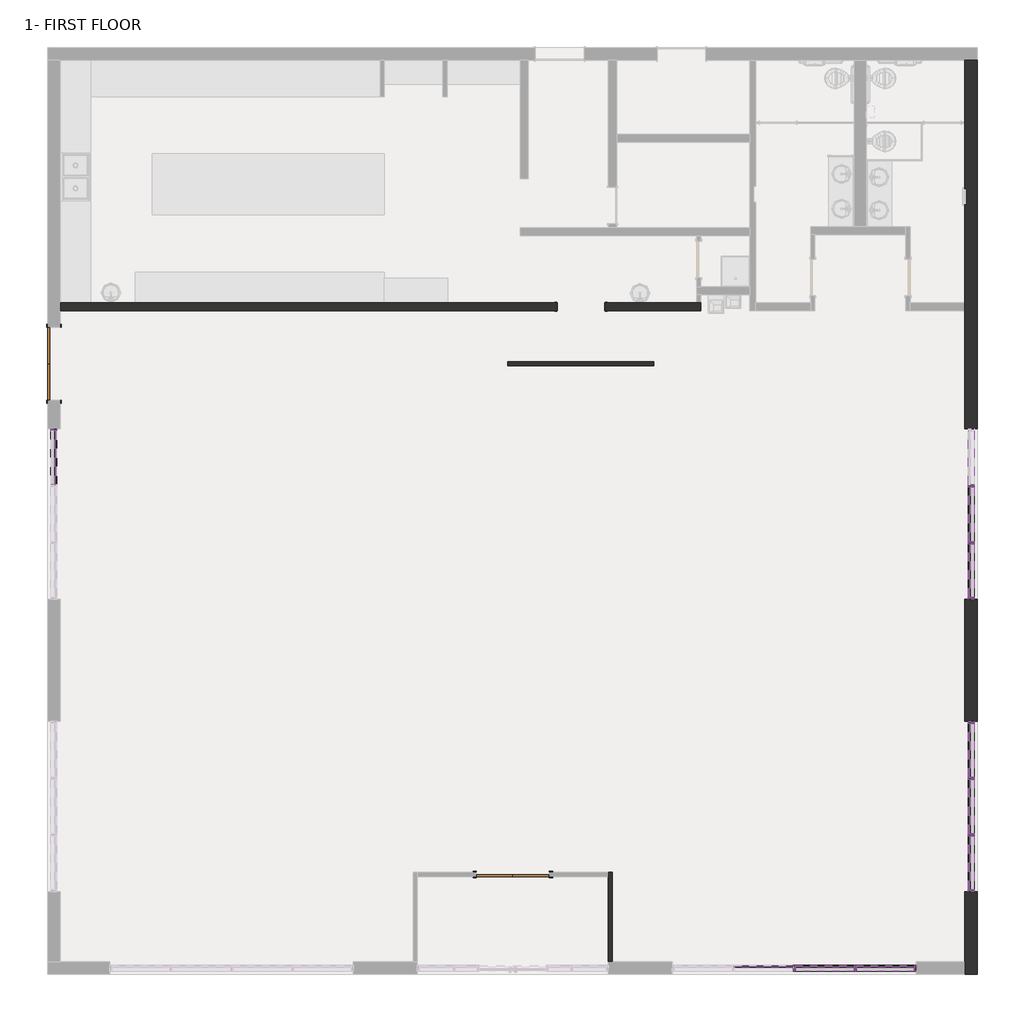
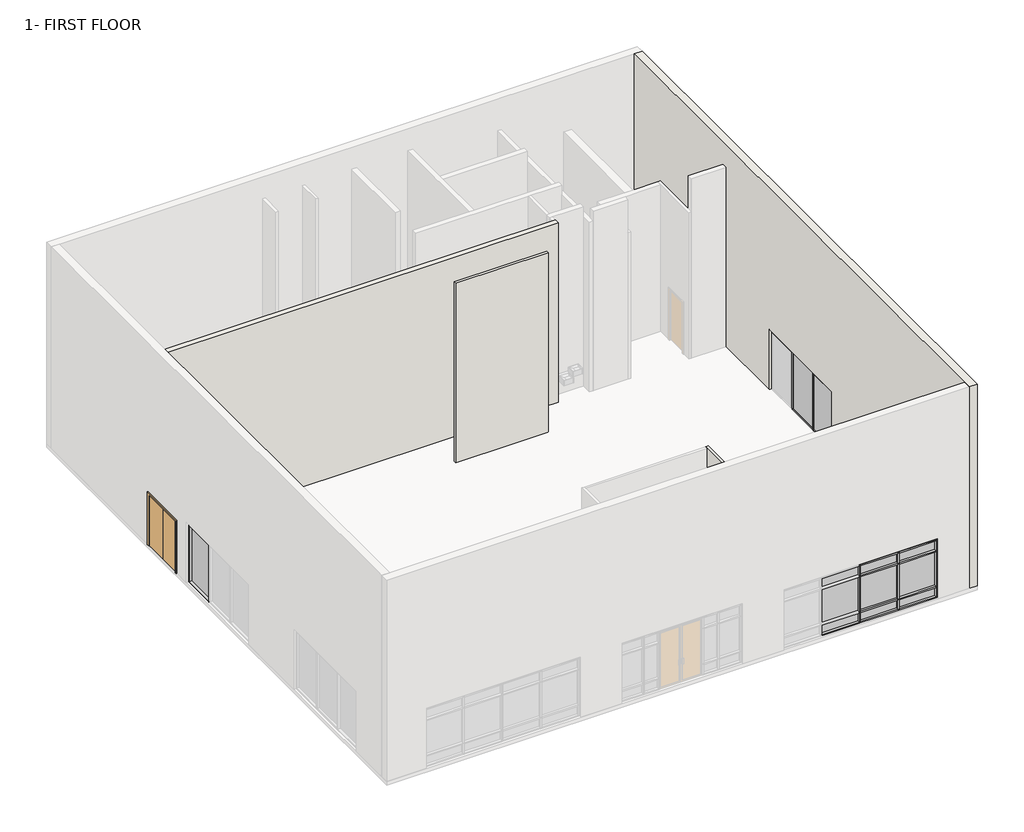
# One storey, part 3 of 4: 57 members, 24 plates, 4 walls, 3 doors.
"""IFC4 building model written with IfcOpenShell, lengths in millimetres."""

from ifc_helpers import new_model, si_unit, origin, origin_with_axes, place, context, project, spatial, polyline, outline, extrude, faceted_brep, transform, mapped, element, save
from components import door_824c45fc, door_6b4fb47b, m_opening_cased_1118_x_2134mm_5fbddd51, rectangular_mullion_50_x_150mm_a8ea6182, rectangular_mullion_50_x_150mm_84181acf, rectangular_mullion_50_x_150mm_662c37b1, rectangular_mullion_50_x_150mm_d49d4e0b, rectangular_mullion_50_x_150mm_5a2b04db, rectangular_mullion_50_x_150mm_00ccb73c, rectangular_mullion_50_x_150mm_edf85684, rectangular_mullion_50_x_150mm_6225e4e3, rectangular_mullion_50_x_150mm_3e65a84e, rectangular_mullion_50_x_150mm_abe4d200, rectangular_mullion_50_x_150mm_372c5efd, rectangular_mullion_50_x_150mm_1929d193, rectangular_mullion_50_x_150mm_e5e1dcca, rectangular_mullion_50_x_150mm_686aa266, rectangular_mullion_50_x_150mm_8236aad0, rectangular_mullion_50_x_150mm_3b5711fc, system_panel_glazed_17027882, system_panel_glazed_f43e7dcf, system_panel_glazed_50cfc5fc, system_panel_glazed_2f55ef0c, system_panel_glazed_3a738299, system_panel_glazed_ff3b6933, system_panel_glazed_378a796b, system_panel_glazed_a4b64557, system_panel_glazed_7ee34cb0, system_panel_glazed_b767e4ab, system_panel_glazed_bfac3f35, system_panel_glazed_e86309c8, system_panel_glazed_7bd62287, system_panel_glazed_753062c8

model = new_model("IFC4")

# Units and contexts
model_context = context("Model", 3, world=origin())
ifc_project = project(units=[si_unit("LENGTHUNIT", "METRE", prefix="MILLI")], contexts=[model_context])

# Site, building, storey
site = spatial("IfcSite", under=ifc_project)
building = spatial("IfcBuilding", under=site)
storey = spatial("IfcBuildingStorey", under=building, Name="1- FIRST FLOOR", Elevation=0.0)

# Doors
placement = place(None, origin())
door_shape = door_824c45fc(model_context)
element("IfcDoor", 1, ObjectType="Double-Flush : 72\" x 84\"", at=placement, inside=storey, context=model_context, shape_type="MappedRepresentation", body=[
    mapped(door_shape, transform((-5903.9879871, -10368.6213332, 0.0), x_axis=(1.0, 0.0, 0.0), y_axis=(0.0, 1.0, 0.0), z_axis=(0.0, 0.0, 1.0))),
])
door_2_shape = door_6b4fb47b(model_context)
element("IfcDoor", 2, ObjectType="Double-Flush : 72\" x 84\"", at=placement, inside=storey, context=model_context, shape_type="MappedRepresentation", body=[
    mapped(door_2_shape, transform((-17387.1504871, 2404.4036668, 0.0), x_axis=(0.0, 1.0, 0.0), y_axis=(-1.0, 0.0, 0.0), z_axis=(0.0, 0.0, 1.0))),
])
m_opening_cased_1118_x_2134mm_shape = m_opening_cased_1118_x_2134mm_5fbddd51(model_context)
element("IfcDoor", 3, ObjectType="M_Opening-Cased : 1118 x 2134mm", at=placement, inside=storey, context=model_context, shape_type="MappedRepresentation", body=[
    mapped(m_opening_cased_1118_x_2134mm_shape, transform((-4191.5993304, 3829.9786668, 0.0), x_axis=(1.0, 0.0, 0.0), y_axis=(0.0, 1.0, 0.0), z_axis=(0.0, 0.0, 1.0))),
])

# Members
rectangular_mullion_50_x_150mm_shape = rectangular_mullion_50_x_150mm_a8ea6182(model_context)
element("IfcMember", 4, ObjectType="Rectangular Mullion : 50 x 150mm", at=placement, inside=storey, context=model_context, shape_type="MappedRepresentation", body=[
    mapped(rectangular_mullion_50_x_150mm_shape, transform((-17387.1504871, 779.9786668, 2508.25), x_axis=(0.0, 1.0, 0.0), y_axis=(-1.0, 0.0, 0.0), z_axis=(0.0, 0.0, 1.0))),
])
rectangular_mullion_50_x_150mm_2_shape = rectangular_mullion_50_x_150mm_84181acf(model_context)
element("IfcMember", 5, ObjectType="Rectangular Mullion : 50 x 150mm", at=placement, inside=storey, context=model_context, shape_type="MappedRepresentation", body=[
    mapped(rectangular_mullion_50_x_150mm_2_shape, transform((5558.5745129, -642.4213333, 2400.0), x_axis=(0.0, -1.0, 0.0), y_axis=(-1.0, 0.0, 0.0), z_axis=(0.0, 0.0, -1.0))),
])
element("IfcMember", 6, ObjectType="Rectangular Mullion : 50 x 150mm", at=placement, inside=storey, context=model_context, shape_type="MappedRepresentation", body=[
    mapped(rectangular_mullion_50_x_150mm_2_shape, transform((5558.5745129, -2064.8213331, 2400.0), x_axis=(0.0, -1.0, 0.0), y_axis=(-1.0, 0.0, 0.0), z_axis=(0.0, 0.0, -1.0))),
])
element("IfcMember", 7, ObjectType="Rectangular Mullion : 50 x 150mm", at=placement, inside=storey, context=model_context, shape_type="MappedRepresentation", body=[
    mapped(rectangular_mullion_50_x_150mm_2_shape, transform((5558.5745129, -7957.6213333, 2400.0), x_axis=(0.0, -1.0, 0.0), y_axis=(-1.0, 0.0, 0.0), z_axis=(0.0, 0.0, -1.0))),
])
element("IfcMember", 8, ObjectType="Rectangular Mullion : 50 x 150mm", at=placement, inside=storey, context=model_context, shape_type="MappedRepresentation", body=[
    mapped(rectangular_mullion_50_x_150mm_2_shape, transform((5558.5745129, -9380.0213331, 2400.0), x_axis=(0.0, -1.0, 0.0), y_axis=(-1.0, 0.0, 0.0), z_axis=(0.0, 0.0, -1.0))),
])
element("IfcMember", 9, ObjectType="Rectangular Mullion : 50 x 150mm", at=placement, inside=storey, context=model_context, shape_type="MappedRepresentation", body=[
    mapped(rectangular_mullion_50_x_150mm_2_shape, transform((2658.2120127, -12710.1838332, 2400.0), x_axis=(-1.0, 0.0, 0.0), y_axis=(0.0, 1.0, 0.0), z_axis=(0.0, 0.0, -1.0))),
])
element("IfcMember", 10, ObjectType="Rectangular Mullion : 50 x 150mm", at=placement, inside=storey, context=model_context, shape_type="MappedRepresentation", body=[
    mapped(rectangular_mullion_50_x_150mm_2_shape, transform((1134.2120129, -12710.1838332, 2400.0), x_axis=(-1.0, 0.0, 0.0), y_axis=(0.0, 1.0, 0.0), z_axis=(0.0, 0.0, -1.0))),
])
element("IfcMember", 11, ObjectType="Rectangular Mullion : 50 x 150mm", at=placement, inside=storey, context=model_context, shape_type="MappedRepresentation", body=[
    mapped(rectangular_mullion_50_x_150mm_shape, transform((5558.5745129, -3487.2213332, 2400.0), x_axis=(0.0, -1.0, 0.0), y_axis=(-1.0, 0.0, 0.0), z_axis=(0.0, 0.0, -1.0))),
])
element("IfcMember", 12, ObjectType="Rectangular Mullion : 50 x 150mm", at=placement, inside=storey, context=model_context, shape_type="MappedRepresentation", body=[
    mapped(rectangular_mullion_50_x_150mm_shape, transform((5558.5745129, -10802.4213332, 2400.0), x_axis=(0.0, -1.0, 0.0), y_axis=(-1.0, 0.0, 0.0), z_axis=(0.0, 0.0, -1.0))),
])
element("IfcMember", 13, ObjectType="Rectangular Mullion : 50 x 150mm", at=placement, inside=storey, context=model_context, shape_type="MappedRepresentation", body=[
    mapped(rectangular_mullion_50_x_150mm_shape, transform((5558.5745129, -6535.2213332, 2508.25), x_axis=(0.0, 1.0, 0.0), y_axis=(-1.0, 0.0, 0.0), z_axis=(0.0, 0.0, 1.0))),
])
element("IfcMember", 14, ObjectType="Rectangular Mullion : 50 x 150mm", at=placement, inside=storey, context=model_context, shape_type="MappedRepresentation", body=[
    mapped(rectangular_mullion_50_x_150mm_shape, transform((4182.2120129, -12710.1838332, 2508.25), x_axis=(1.0, 0.0, 0.0), y_axis=(0.0, 1.0, 0.0), z_axis=(0.0, 0.0, 1.0))),
])
rectangular_mullion_50_x_150mm_3_shape = rectangular_mullion_50_x_150mm_662c37b1(model_context)
element("IfcMember", 15, ObjectType="Rectangular Mullion : 50 x 150mm", at=placement, inside=storey, context=model_context, shape_type="MappedRepresentation", body=[
    mapped(rectangular_mullion_50_x_150mm_3_shape, transform((-17387.1504871, 779.9786668, 2400.0), x_axis=(0.0, 1.0, 0.0), y_axis=(-1.0, 0.0, 0.0), z_axis=(0.0, 0.0, 1.0))),
])
rectangular_mullion_50_x_150mm_4_shape = rectangular_mullion_50_x_150mm_d49d4e0b(model_context)
element("IfcMember", 16, ObjectType="Rectangular Mullion : 50 x 150mm", at=placement, inside=storey, context=model_context, shape_type="MappedRepresentation", body=[
    mapped(rectangular_mullion_50_x_150mm_4_shape, transform((-17387.1504871, 729.9786668, 0.0), x_axis=(0.0, 0.0, -1.0), y_axis=(-1.0, 0.0, 0.0), z_axis=(0.0, 1.0, 0.0))),
])
element("IfcMember", 17, ObjectType="Rectangular Mullion : 50 x 150mm", at=placement, inside=storey, context=model_context, shape_type="MappedRepresentation", body=[
    mapped(rectangular_mullion_50_x_150mm_4_shape, transform((5558.5745129, -3437.2213332, 2508.25), x_axis=(0.0, 0.0, 1.0), y_axis=(-1.0, 0.0, 0.0), z_axis=(0.0, -1.0, 0.0))),
])
element("IfcMember", 18, ObjectType="Rectangular Mullion : 50 x 150mm", at=placement, inside=storey, context=model_context, shape_type="MappedRepresentation", body=[
    mapped(rectangular_mullion_50_x_150mm_4_shape, transform((5558.5745129, -617.4213333, 2508.25), x_axis=(0.0, 0.0, 1.0), y_axis=(-1.0, 0.0, 0.0), z_axis=(0.0, -1.0, 0.0))),
])
element("IfcMember", 19, ObjectType="Rectangular Mullion : 50 x 150mm", at=placement, inside=storey, context=model_context, shape_type="MappedRepresentation", body=[
    mapped(rectangular_mullion_50_x_150mm_4_shape, transform((5558.5745129, -10752.4213332, 2508.25), x_axis=(0.0, 0.0, 1.0), y_axis=(-1.0, 0.0, 0.0), z_axis=(0.0, -1.0, 0.0))),
])
element("IfcMember", 20, ObjectType="Rectangular Mullion : 50 x 150mm", at=placement, inside=storey, context=model_context, shape_type="MappedRepresentation", body=[
    mapped(rectangular_mullion_50_x_150mm_4_shape, transform((5558.5745129, -7932.6213333, 2508.25), x_axis=(0.0, 0.0, 1.0), y_axis=(-1.0, 0.0, 0.0), z_axis=(0.0, -1.0, 0.0))),
])
rectangular_mullion_50_x_150mm_5_shape = rectangular_mullion_50_x_150mm_5a2b04db(model_context)
element("IfcMember", 21, ObjectType="Rectangular Mullion : 50 x 150mm", at=placement, inside=storey, context=model_context, shape_type="MappedRepresentation", body=[
    mapped(rectangular_mullion_50_x_150mm_5_shape, transform((5558.5745129, -2039.8213331, 2508.25), x_axis=(0.0, 0.0, 1.0), y_axis=(-1.0, 0.0, 0.0), z_axis=(0.0, -1.0, 0.0))),
])
element("IfcMember", 22, ObjectType="Rectangular Mullion : 50 x 150mm", at=placement, inside=storey, context=model_context, shape_type="MappedRepresentation", body=[
    mapped(rectangular_mullion_50_x_150mm_5_shape, transform((5558.5745129, -9355.0213331, 2508.25), x_axis=(0.0, 0.0, 1.0), y_axis=(-1.0, 0.0, 0.0), z_axis=(0.0, -1.0, 0.0))),
])
element("IfcMember", 23, ObjectType="Rectangular Mullion : 50 x 150mm", at=placement, inside=storey, context=model_context, shape_type="MappedRepresentation", body=[
    mapped(rectangular_mullion_50_x_150mm_4_shape, transform((5558.5745129, -2089.8213331, 0.0), x_axis=(0.0, 0.0, -1.0), y_axis=(-1.0, 0.0, 0.0), z_axis=(0.0, 1.0, 0.0))),
])
element("IfcMember", 24, ObjectType="Rectangular Mullion : 50 x 150mm", at=placement, inside=storey, context=model_context, shape_type="MappedRepresentation", body=[
    mapped(rectangular_mullion_50_x_150mm_4_shape, transform((5558.5745129, -6585.2213332, 0.0), x_axis=(0.0, 0.0, -1.0), y_axis=(-1.0, 0.0, 0.0), z_axis=(0.0, 1.0, 0.0))),
])
element("IfcMember", 25, ObjectType="Rectangular Mullion : 50 x 150mm", at=placement, inside=storey, context=model_context, shape_type="MappedRepresentation", body=[
    mapped(rectangular_mullion_50_x_150mm_4_shape, transform((5558.5745129, -9405.0213331, 0.0), x_axis=(0.0, 0.0, -1.0), y_axis=(-1.0, 0.0, 0.0), z_axis=(0.0, 1.0, 0.0))),
])
element("IfcMember", 26, ObjectType="Rectangular Mullion : 50 x 150mm", at=placement, inside=storey, context=model_context, shape_type="MappedRepresentation", body=[
    mapped(rectangular_mullion_50_x_150mm_5_shape, transform((5558.5745129, -667.4213333, 0.0), x_axis=(0.0, 0.0, -1.0), y_axis=(-1.0, 0.0, 0.0), z_axis=(0.0, 1.0, 0.0))),
])
element("IfcMember", 27, ObjectType="Rectangular Mullion : 50 x 150mm", at=placement, inside=storey, context=model_context, shape_type="MappedRepresentation", body=[
    mapped(rectangular_mullion_50_x_150mm_5_shape, transform((5558.5745129, -7982.6213333, 0.0), x_axis=(0.0, 0.0, -1.0), y_axis=(-1.0, 0.0, 0.0), z_axis=(0.0, 1.0, 0.0))),
])
rectangular_mullion_50_x_150mm_6_shape = rectangular_mullion_50_x_150mm_00ccb73c(model_context)
element("IfcMember", 28, ObjectType="Rectangular Mullion : 50 x 150mm", at=placement, inside=storey, context=model_context, shape_type="MappedRepresentation", body=[
    mapped(rectangular_mullion_50_x_150mm_6_shape, transform((5558.5745129, -617.4213333, 2400.0), x_axis=(0.0, 0.0, 1.0), y_axis=(-1.0, 0.0, 0.0), z_axis=(0.0, -1.0, 0.0))),
])
element("IfcMember", 29, ObjectType="Rectangular Mullion : 50 x 150mm", at=placement, inside=storey, context=model_context, shape_type="MappedRepresentation", body=[
    mapped(rectangular_mullion_50_x_150mm_6_shape, transform((5558.5745129, -3437.2213332, 2400.0), x_axis=(0.0, 0.0, 1.0), y_axis=(-1.0, 0.0, 0.0), z_axis=(0.0, -1.0, 0.0))),
])
element("IfcMember", 30, ObjectType="Rectangular Mullion : 50 x 150mm", at=placement, inside=storey, context=model_context, shape_type="MappedRepresentation", body=[
    mapped(rectangular_mullion_50_x_150mm_6_shape, transform((5558.5745129, -7932.6213333, 2400.0), x_axis=(0.0, 0.0, 1.0), y_axis=(-1.0, 0.0, 0.0), z_axis=(0.0, -1.0, 0.0))),
])
element("IfcMember", 31, ObjectType="Rectangular Mullion : 50 x 150mm", at=placement, inside=storey, context=model_context, shape_type="MappedRepresentation", body=[
    mapped(rectangular_mullion_50_x_150mm_6_shape, transform((5558.5745129, -10752.4213332, 2400.0), x_axis=(0.0, 0.0, 1.0), y_axis=(-1.0, 0.0, 0.0), z_axis=(0.0, -1.0, 0.0))),
])
rectangular_mullion_50_x_150mm_7_shape = rectangular_mullion_50_x_150mm_edf85684(model_context)
element("IfcMember", 32, ObjectType="Rectangular Mullion : 50 x 150mm", at=placement, inside=storey, context=model_context, shape_type="MappedRepresentation", body=[
    mapped(rectangular_mullion_50_x_150mm_7_shape, transform((5558.5745129, -2039.8213331, 2400.0), x_axis=(0.0, 0.0, 1.0), y_axis=(-1.0, 0.0, 0.0), z_axis=(0.0, -1.0, 0.0))),
])
element("IfcMember", 33, ObjectType="Rectangular Mullion : 50 x 150mm", at=placement, inside=storey, context=model_context, shape_type="MappedRepresentation", body=[
    mapped(rectangular_mullion_50_x_150mm_7_shape, transform((5558.5745129, -9355.0213331, 2400.0), x_axis=(0.0, 0.0, 1.0), y_axis=(-1.0, 0.0, 0.0), z_axis=(0.0, -1.0, 0.0))),
])
rectangular_mullion_50_x_150mm_8_shape = rectangular_mullion_50_x_150mm_6225e4e3(model_context)
element("IfcMember", 34, ObjectType="Rectangular Mullion : 50 x 150mm", at=placement, inside=storey, context=model_context, shape_type="MappedRepresentation", body=[
    mapped(rectangular_mullion_50_x_150mm_8_shape, transform((5558.5745129, -642.4213333, 0.0), x_axis=(0.0, -1.0, 0.0), y_axis=(-1.0, 0.0, 0.0), z_axis=(0.0, 0.0, -1.0))),
])
element("IfcMember", 35, ObjectType="Rectangular Mullion : 50 x 150mm", at=placement, inside=storey, context=model_context, shape_type="MappedRepresentation", body=[
    mapped(rectangular_mullion_50_x_150mm_8_shape, transform((5558.5745129, -2064.8213331, 0.0), x_axis=(0.0, -1.0, 0.0), y_axis=(-1.0, 0.0, 0.0), z_axis=(0.0, 0.0, -1.0))),
])
element("IfcMember", 36, ObjectType="Rectangular Mullion : 50 x 150mm", at=placement, inside=storey, context=model_context, shape_type="MappedRepresentation", body=[
    mapped(rectangular_mullion_50_x_150mm_8_shape, transform((5558.5745129, -7957.6213333, 0.0), x_axis=(0.0, -1.0, 0.0), y_axis=(-1.0, 0.0, 0.0), z_axis=(0.0, 0.0, -1.0))),
])
element("IfcMember", 37, ObjectType="Rectangular Mullion : 50 x 150mm", at=placement, inside=storey, context=model_context, shape_type="MappedRepresentation", body=[
    mapped(rectangular_mullion_50_x_150mm_8_shape, transform((5558.5745129, -9380.0213331, 0.0), x_axis=(0.0, -1.0, 0.0), y_axis=(-1.0, 0.0, 0.0), z_axis=(0.0, 0.0, -1.0))),
])
element("IfcMember", 38, ObjectType="Rectangular Mullion : 50 x 150mm", at=placement, inside=storey, context=model_context, shape_type="MappedRepresentation", body=[
    mapped(rectangular_mullion_50_x_150mm_3_shape, transform((5558.5745129, -3487.2213332, 0.0), x_axis=(0.0, -1.0, 0.0), y_axis=(-1.0, 0.0, 0.0), z_axis=(0.0, 0.0, -1.0))),
])
element("IfcMember", 39, ObjectType="Rectangular Mullion : 50 x 150mm", at=placement, inside=storey, context=model_context, shape_type="MappedRepresentation", body=[
    mapped(rectangular_mullion_50_x_150mm_3_shape, transform((5558.5745129, -10802.4213332, 0.0), x_axis=(0.0, -1.0, 0.0), y_axis=(-1.0, 0.0, 0.0), z_axis=(0.0, 0.0, -1.0))),
])
element("IfcMember", 40, ObjectType="Rectangular Mullion : 50 x 150mm", at=placement, inside=storey, context=model_context, shape_type="MappedRepresentation", body=[
    mapped(rectangular_mullion_50_x_150mm_3_shape, transform((5558.5745129, -6535.2213332, 2400.0), x_axis=(0.0, 1.0, 0.0), y_axis=(-1.0, 0.0, 0.0), z_axis=(0.0, 0.0, 1.0))),
])
rectangular_mullion_50_x_150mm_9_shape = rectangular_mullion_50_x_150mm_3e65a84e(model_context)
element("IfcMember", 41, ObjectType="Rectangular Mullion : 50 x 150mm", at=placement, inside=storey, context=model_context, shape_type="MappedRepresentation", body=[
    mapped(rectangular_mullion_50_x_150mm_9_shape, transform((2683.2120127, -12710.1838332, 2508.25), x_axis=(0.0, 0.0, 1.0), y_axis=(0.0, 1.0, 0.0), z_axis=(-1.0, 0.0, 0.0))),
])
rectangular_mullion_50_x_150mm_10_shape = rectangular_mullion_50_x_150mm_abe4d200(model_context)
element("IfcMember", 42, ObjectType="Rectangular Mullion : 50 x 150mm", at=placement, inside=storey, context=model_context, shape_type="MappedRepresentation", body=[
    mapped(rectangular_mullion_50_x_150mm_10_shape, transform((1159.2120129, -12710.1838332, 2508.25), x_axis=(0.0, 0.0, 1.0), y_axis=(0.0, 1.0, 0.0), z_axis=(-1.0, 0.0, 0.0))),
])
element("IfcMember", 43, ObjectType="Rectangular Mullion : 50 x 150mm", at=placement, inside=storey, context=model_context, shape_type="MappedRepresentation", body=[
    mapped(rectangular_mullion_50_x_150mm_9_shape, transform((4132.2120129, -12710.1838332, 0.0), x_axis=(0.0, 0.0, -1.0), y_axis=(0.0, 1.0, 0.0), z_axis=(1.0, 0.0, 0.0))),
])
element("IfcMember", 44, ObjectType="Rectangular Mullion : 50 x 150mm", at=placement, inside=storey, context=model_context, shape_type="MappedRepresentation", body=[
    mapped(rectangular_mullion_50_x_150mm_10_shape, transform((2633.2120127, -12710.1838332, 0.0), x_axis=(0.0, 0.0, -1.0), y_axis=(0.0, 1.0, 0.0), z_axis=(1.0, 0.0, 0.0))),
])
element("IfcMember", 45, ObjectType="Rectangular Mullion : 50 x 150mm", at=placement, inside=storey, context=model_context, shape_type="MappedRepresentation", body=[
    mapped(rectangular_mullion_50_x_150mm_10_shape, transform((1109.2120129, -12710.1838332, 0.0), x_axis=(0.0, 0.0, -1.0), y_axis=(0.0, 1.0, 0.0), z_axis=(1.0, 0.0, 0.0))),
])
rectangular_mullion_50_x_150mm_11_shape = rectangular_mullion_50_x_150mm_372c5efd(model_context)
element("IfcMember", 46, ObjectType="Rectangular Mullion : 50 x 150mm", at=placement, inside=storey, context=model_context, shape_type="MappedRepresentation", body=[
    mapped(rectangular_mullion_50_x_150mm_11_shape, transform((2683.2120127, -12710.1838332, 2400.0), x_axis=(0.0, 0.0, 1.0), y_axis=(0.0, 1.0, 0.0), z_axis=(-1.0, 0.0, 0.0))),
])
rectangular_mullion_50_x_150mm_12_shape = rectangular_mullion_50_x_150mm_1929d193(model_context)
element("IfcMember", 47, ObjectType="Rectangular Mullion : 50 x 150mm", at=placement, inside=storey, context=model_context, shape_type="MappedRepresentation", body=[
    mapped(rectangular_mullion_50_x_150mm_12_shape, transform((1159.2120129, -12710.1838332, 2400.0), x_axis=(0.0, 0.0, 1.0), y_axis=(0.0, 1.0, 0.0), z_axis=(-1.0, 0.0, 0.0))),
])
element("IfcMember", 48, ObjectType="Rectangular Mullion : 50 x 150mm", at=placement, inside=storey, context=model_context, shape_type="MappedRepresentation", body=[
    mapped(rectangular_mullion_50_x_150mm_11_shape, transform((2683.2120127, -12710.1838332, 1942.8), x_axis=(0.0, 0.0, 1.0), y_axis=(0.0, 1.0, 0.0), z_axis=(-1.0, 0.0, 0.0))),
])
element("IfcMember", 49, ObjectType="Rectangular Mullion : 50 x 150mm", at=placement, inside=storey, context=model_context, shape_type="MappedRepresentation", body=[
    mapped(rectangular_mullion_50_x_150mm_11_shape, transform((2683.2120127, -12710.1838332, 457.2), x_axis=(0.0, 0.0, 1.0), y_axis=(0.0, 1.0, 0.0), z_axis=(-1.0, 0.0, 0.0))),
])
element("IfcMember", 50, ObjectType="Rectangular Mullion : 50 x 150mm", at=placement, inside=storey, context=model_context, shape_type="MappedRepresentation", body=[
    mapped(rectangular_mullion_50_x_150mm_12_shape, transform((1159.2120129, -12710.1838332, 1942.8), x_axis=(0.0, 0.0, 1.0), y_axis=(0.0, 1.0, 0.0), z_axis=(-1.0, 0.0, 0.0))),
])
element("IfcMember", 51, ObjectType="Rectangular Mullion : 50 x 150mm", at=placement, inside=storey, context=model_context, shape_type="MappedRepresentation", body=[
    mapped(rectangular_mullion_50_x_150mm_12_shape, transform((1159.2120129, -12710.1838332, 457.2), x_axis=(0.0, 0.0, 1.0), y_axis=(0.0, 1.0, 0.0), z_axis=(-1.0, 0.0, 0.0))),
])
rectangular_mullion_50_x_150mm_13_shape = rectangular_mullion_50_x_150mm_e5e1dcca(model_context)
element("IfcMember", 52, ObjectType="Rectangular Mullion : 50 x 150mm", at=placement, inside=storey, context=model_context, shape_type="MappedRepresentation", body=[
    mapped(rectangular_mullion_50_x_150mm_13_shape, transform((2658.2120127, -12710.1838332, 1942.8), x_axis=(-1.0, 0.0, 0.0), y_axis=(0.0, 1.0, 0.0), z_axis=(0.0, 0.0, -1.0))),
])
element("IfcMember", 53, ObjectType="Rectangular Mullion : 50 x 150mm", at=placement, inside=storey, context=model_context, shape_type="MappedRepresentation", body=[
    mapped(rectangular_mullion_50_x_150mm_13_shape, transform((1134.2120129, -12710.1838332, 1942.8), x_axis=(-1.0, 0.0, 0.0), y_axis=(0.0, 1.0, 0.0), z_axis=(0.0, 0.0, -1.0))),
])
rectangular_mullion_50_x_150mm_14_shape = rectangular_mullion_50_x_150mm_686aa266(model_context)
element("IfcMember", 54, ObjectType="Rectangular Mullion : 50 x 150mm", at=placement, inside=storey, context=model_context, shape_type="MappedRepresentation", body=[
    mapped(rectangular_mullion_50_x_150mm_14_shape, transform((4182.2120129, -12710.1838332, 2400.0), x_axis=(1.0, 0.0, 0.0), y_axis=(0.0, 1.0, 0.0), z_axis=(0.0, 0.0, 1.0))),
])
element("IfcMember", 55, ObjectType="Rectangular Mullion : 50 x 150mm", at=placement, inside=storey, context=model_context, shape_type="MappedRepresentation", body=[
    mapped(rectangular_mullion_50_x_150mm_13_shape, transform((2658.2120127, -12710.1838332, 0.0), x_axis=(-1.0, 0.0, 0.0), y_axis=(0.0, 1.0, 0.0), z_axis=(0.0, 0.0, -1.0))),
])
element("IfcMember", 56, ObjectType="Rectangular Mullion : 50 x 150mm", at=placement, inside=storey, context=model_context, shape_type="MappedRepresentation", body=[
    mapped(rectangular_mullion_50_x_150mm_13_shape, transform((1134.2120129, -12710.1838332, 0.0), x_axis=(-1.0, 0.0, 0.0), y_axis=(0.0, 1.0, 0.0), z_axis=(0.0, 0.0, -1.0))),
])
rectangular_mullion_50_x_150mm_15_shape = rectangular_mullion_50_x_150mm_8236aad0(model_context)
element("IfcMember", 57, ObjectType="Rectangular Mullion : 50 x 150mm", at=placement, inside=storey, context=model_context, shape_type="MappedRepresentation", body=[
    mapped(rectangular_mullion_50_x_150mm_15_shape, transform((2658.2120127, -12710.1838332, 457.2), x_axis=(-1.0, 0.0, 0.0), y_axis=(0.0, 1.0, 0.0), z_axis=(0.0, 0.0, -1.0))),
])
element("IfcMember", 58, ObjectType="Rectangular Mullion : 50 x 150mm", at=placement, inside=storey, context=model_context, shape_type="MappedRepresentation", body=[
    mapped(rectangular_mullion_50_x_150mm_15_shape, transform((1134.2120129, -12710.1838332, 457.2), x_axis=(-1.0, 0.0, 0.0), y_axis=(0.0, 1.0, 0.0), z_axis=(0.0, 0.0, -1.0))),
])
rectangular_mullion_50_x_150mm_16_shape = rectangular_mullion_50_x_150mm_3b5711fc(model_context)
element("IfcMember", 59, ObjectType="Rectangular Mullion : 50 x 150mm", at=placement, inside=storey, context=model_context, shape_type="MappedRepresentation", body=[
    mapped(rectangular_mullion_50_x_150mm_16_shape, transform((4182.2120129, -12710.1838332, 1942.8), x_axis=(1.0, 0.0, 0.0), y_axis=(0.0, 1.0, 0.0), z_axis=(0.0, 0.0, 1.0))),
])
element("IfcMember", 60, ObjectType="Rectangular Mullion : 50 x 150mm", at=placement, inside=storey, context=model_context, shape_type="MappedRepresentation", body=[
    mapped(rectangular_mullion_50_x_150mm_14_shape, transform((4182.2120129, -12710.1838332, 457.2), x_axis=(1.0, 0.0, 0.0), y_axis=(0.0, 1.0, 0.0), z_axis=(0.0, 0.0, 1.0))),
])

# Plates
system_panel_glazed_shape = system_panel_glazed_17027882(model_context)
element("IfcPlate", 61, ObjectType="System Panel : Glazed", at=placement, inside=storey, context=model_context, shape_type="MappedRepresentation", body=[
    mapped(system_panel_glazed_shape, transform((-17387.1504871, 56.2786667, 50.0), x_axis=(0.0, -1.0, 0.0), y_axis=(1.0, 0.0, 0.0), z_axis=(0.0, 0.0, 1.0))),
])
system_panel_glazed_2_shape = system_panel_glazed_f43e7dcf(model_context)
element("IfcPlate", 62, ObjectType="System Panel : Glazed", at=placement, inside=storey, context=model_context, shape_type="MappedRepresentation", body=[
    mapped(system_panel_glazed_2_shape, transform((-17387.1504871, 56.2786667, 2425.0), x_axis=(0.0, -1.0, 0.0), y_axis=(1.0, 0.0, 0.0), z_axis=(0.0, 0.0, 1.0))),
])
system_panel_glazed_3_shape = system_panel_glazed_50cfc5fc(model_context)
element("IfcPlate", 63, ObjectType="System Panel : Glazed", at=placement, inside=storey, context=model_context, shape_type="MappedRepresentation", body=[
    mapped(system_panel_glazed_3_shape, transform((5558.5745129, -2763.5213332, 50.0), x_axis=(0.0, -1.0, 0.0), y_axis=(1.0, 0.0, 0.0), z_axis=(0.0, 0.0, 1.0))),
])
element("IfcPlate", 64, ObjectType="System Panel : Glazed", at=placement, inside=storey, context=model_context, shape_type="MappedRepresentation", body=[
    mapped(system_panel_glazed_3_shape, transform((5558.5745129, -7258.9213333, 50.0), x_axis=(0.0, -1.0, 0.0), y_axis=(1.0, 0.0, 0.0), z_axis=(0.0, 0.0, 1.0))),
])
element("IfcPlate", 65, ObjectType="System Panel : Glazed", at=placement, inside=storey, context=model_context, shape_type="MappedRepresentation", body=[
    mapped(system_panel_glazed_3_shape, transform((5558.5745129, -10078.7213332, 50.0), x_axis=(0.0, -1.0, 0.0), y_axis=(1.0, 0.0, 0.0), z_axis=(0.0, 0.0, 1.0))),
])
system_panel_glazed_4_shape = system_panel_glazed_2f55ef0c(model_context)
element("IfcPlate", 66, ObjectType="System Panel : Glazed", at=placement, inside=storey, context=model_context, shape_type="MappedRepresentation", body=[
    mapped(system_panel_glazed_4_shape, transform((5558.5745129, -1353.6213332, 50.0), x_axis=(0.0, -1.0, 0.0), y_axis=(1.0, 0.0, 0.0), z_axis=(0.0, 0.0, 1.0))),
])
element("IfcPlate", 67, ObjectType="System Panel : Glazed", at=placement, inside=storey, context=model_context, shape_type="MappedRepresentation", body=[
    mapped(system_panel_glazed_4_shape, transform((5558.5745129, -8668.8213332, 50.0), x_axis=(0.0, -1.0, 0.0), y_axis=(1.0, 0.0, 0.0), z_axis=(0.0, 0.0, 1.0))),
])
system_panel_glazed_5_shape = system_panel_glazed_3a738299(model_context)
element("IfcPlate", 68, ObjectType="System Panel : Glazed", at=placement, inside=storey, context=model_context, shape_type="MappedRepresentation", body=[
    mapped(system_panel_glazed_5_shape, transform((5558.5745129, -2763.5213332, 2425.0), x_axis=(0.0, -1.0, 0.0), y_axis=(1.0, 0.0, 0.0), z_axis=(0.0, 0.0, 1.0))),
])
element("IfcPlate", 69, ObjectType="System Panel : Glazed", at=placement, inside=storey, context=model_context, shape_type="MappedRepresentation", body=[
    mapped(system_panel_glazed_5_shape, transform((5558.5745129, -7258.9213333, 2425.0), x_axis=(0.0, -1.0, 0.0), y_axis=(1.0, 0.0, 0.0), z_axis=(0.0, 0.0, 1.0))),
])
element("IfcPlate", 70, ObjectType="System Panel : Glazed", at=placement, inside=storey, context=model_context, shape_type="MappedRepresentation", body=[
    mapped(system_panel_glazed_5_shape, transform((5558.5745129, -10078.7213332, 2425.0), x_axis=(0.0, -1.0, 0.0), y_axis=(1.0, 0.0, 0.0), z_axis=(0.0, 0.0, 1.0))),
])
system_panel_glazed_6_shape = system_panel_glazed_ff3b6933(model_context)
element("IfcPlate", 71, ObjectType="System Panel : Glazed", at=placement, inside=storey, context=model_context, shape_type="MappedRepresentation", body=[
    mapped(system_panel_glazed_6_shape, transform((5558.5745129, -1353.6213332, 2425.0), x_axis=(0.0, -1.0, 0.0), y_axis=(1.0, 0.0, 0.0), z_axis=(0.0, 0.0, 1.0))),
])
element("IfcPlate", 72, ObjectType="System Panel : Glazed", at=placement, inside=storey, context=model_context, shape_type="MappedRepresentation", body=[
    mapped(system_panel_glazed_6_shape, transform((5558.5745129, -8668.8213332, 2425.0), x_axis=(0.0, -1.0, 0.0), y_axis=(1.0, 0.0, 0.0), z_axis=(0.0, 0.0, 1.0))),
])
system_panel_glazed_7_shape = system_panel_glazed_378a796b(model_context)
element("IfcPlate", 73, ObjectType="System Panel : Glazed", at=placement, inside=storey, context=model_context, shape_type="MappedRepresentation", body=[
    mapped(system_panel_glazed_7_shape, transform((3407.7120128, -12710.1838332, 2425.0), x_axis=(-1.0, 0.0, 0.0), y_axis=(0.0, -1.0, 0.0), z_axis=(0.0, 0.0, 1.0))),
])
system_panel_glazed_8_shape = system_panel_glazed_a4b64557(model_context)
element("IfcPlate", 74, ObjectType="System Panel : Glazed", at=placement, inside=storey, context=model_context, shape_type="MappedRepresentation", body=[
    mapped(system_panel_glazed_8_shape, transform((1896.2120128, -12710.1838332, 2425.0), x_axis=(-1.0, 0.0, 0.0), y_axis=(0.0, -1.0, 0.0), z_axis=(0.0, 0.0, 1.0))),
])
element("IfcPlate", 75, ObjectType="System Panel : Glazed", at=placement, inside=storey, context=model_context, shape_type="MappedRepresentation", body=[
    mapped(system_panel_glazed_8_shape, transform((372.212013, -12710.1838332, 2425.0), x_axis=(-1.0, 0.0, 0.0), y_axis=(0.0, -1.0, 0.0), z_axis=(0.0, 0.0, 1.0))),
])
system_panel_glazed_9_shape = system_panel_glazed_7ee34cb0(model_context)
element("IfcPlate", 76, ObjectType="System Panel : Glazed", at=placement, inside=storey, context=model_context, shape_type="MappedRepresentation", body=[
    mapped(system_panel_glazed_9_shape, transform((3407.7120128, -12710.1838332, 1967.8), x_axis=(-1.0, 0.0, 0.0), y_axis=(0.0, -1.0, 0.0), z_axis=(0.0, 0.0, 1.0))),
])
system_panel_glazed_10_shape = system_panel_glazed_b767e4ab(model_context)
element("IfcPlate", 77, ObjectType="System Panel : Glazed", at=placement, inside=storey, context=model_context, shape_type="MappedRepresentation", body=[
    mapped(system_panel_glazed_10_shape, transform((1896.2120128, -12710.1838332, 1967.8), x_axis=(-1.0, 0.0, 0.0), y_axis=(0.0, -1.0, 0.0), z_axis=(0.0, 0.0, 1.0))),
])
element("IfcPlate", 78, ObjectType="System Panel : Glazed", at=placement, inside=storey, context=model_context, shape_type="MappedRepresentation", body=[
    mapped(system_panel_glazed_10_shape, transform((372.212013, -12710.1838332, 1967.8), x_axis=(-1.0, 0.0, 0.0), y_axis=(0.0, -1.0, 0.0), z_axis=(0.0, 0.0, 1.0))),
])
system_panel_glazed_11_shape = system_panel_glazed_bfac3f35(model_context)
element("IfcPlate", 79, ObjectType="System Panel : Glazed", at=placement, inside=storey, context=model_context, shape_type="MappedRepresentation", body=[
    mapped(system_panel_glazed_11_shape, transform((3407.7120128, -12710.1838332, 50.0), x_axis=(-1.0, 0.0, 0.0), y_axis=(0.0, -1.0, 0.0), z_axis=(0.0, 0.0, 1.0))),
])
system_panel_glazed_12_shape = system_panel_glazed_e86309c8(model_context)
element("IfcPlate", 80, ObjectType="System Panel : Glazed", at=placement, inside=storey, context=model_context, shape_type="MappedRepresentation", body=[
    mapped(system_panel_glazed_12_shape, transform((1896.2120128, -12710.1838332, 50.0), x_axis=(-1.0, 0.0, 0.0), y_axis=(0.0, -1.0, 0.0), z_axis=(0.0, 0.0, 1.0))),
])
element("IfcPlate", 81, ObjectType="System Panel : Glazed", at=placement, inside=storey, context=model_context, shape_type="MappedRepresentation", body=[
    mapped(system_panel_glazed_12_shape, transform((372.212013, -12710.1838332, 50.0), x_axis=(-1.0, 0.0, 0.0), y_axis=(0.0, -1.0, 0.0), z_axis=(0.0, 0.0, 1.0))),
])
system_panel_glazed_13_shape = system_panel_glazed_7bd62287(model_context)
element("IfcPlate", 82, ObjectType="System Panel : Glazed", at=placement, inside=storey, context=model_context, shape_type="MappedRepresentation", body=[
    mapped(system_panel_glazed_13_shape, transform((3407.7120128, -12710.1838332, 482.2), x_axis=(-1.0, 0.0, 0.0), y_axis=(0.0, -1.0, 0.0), z_axis=(0.0, 0.0, 1.0))),
])
system_panel_glazed_14_shape = system_panel_glazed_753062c8(model_context)
element("IfcPlate", 83, ObjectType="System Panel : Glazed", at=placement, inside=storey, context=model_context, shape_type="MappedRepresentation", body=[
    mapped(system_panel_glazed_14_shape, transform((1896.2120128, -12710.1838332, 482.2), x_axis=(-1.0, 0.0, 0.0), y_axis=(0.0, -1.0, 0.0), z_axis=(0.0, 0.0, 1.0))),
])
element("IfcPlate", 84, ObjectType="System Panel : Glazed", at=placement, inside=storey, context=model_context, shape_type="MappedRepresentation", body=[
    mapped(system_panel_glazed_14_shape, transform((372.212013, -12710.1838332, 482.2), x_axis=(-1.0, 0.0, 0.0), y_axis=(0.0, -1.0, 0.0), z_axis=(0.0, 0.0, 1.0))),
])

# Walls
element("IfcWall", 85, ObjectType="Exterior - BRICK + CMU", at=placement, inside=storey, context=model_context, shape_type="Brep", body=[
    faceted_brep([(5401.4120129, -12867.3463332, 8385.96875), (5401.4120129, -12553.0213332, 8385.96875), (5401.4120129, 10002.1786668, 8385.96875), (5401.4120129, 10002.1786668, 0.0), (5401.4120129, 8452.7786668, 0.0), (5401.4120129, 8427.3786668, 0.0), (5401.4120129, 6785.9036668, 0.0), (5401.4120129, 6785.9036668, 1220.7875), (5401.4120129, 6390.6161668, 1220.7875), (5401.4120129, 6390.6161668, 0.0), (5401.4120129, 3931.5786668, 0.0), (5401.4120129, 3728.3786668, 0.0), (5401.4120129, 779.9786668, 0.0), (5401.4120129, 779.9786668, 2508.25), (5401.4120129, -3487.2213332, 2508.25), (5401.4120129, -3487.2213332, 0.0), (5401.4120129, -6535.2213332, 0.0), (5401.4120129, -6535.2213332, 2508.25), (5401.4120129, -10802.4213332, 2508.25), (5401.4120129, -10802.4213332, 0.0), (5401.4120129, -12553.0213332, 0.0), (5401.4120129, -12867.3463332, 0.0), (5715.7370129, 10002.1786668, 8385.96875), (5715.7370129, -12867.3463332, 8385.96875), (5715.7370129, -12867.3463332, 0.0), (5715.7370129, -10802.4213332, 0.0), (5715.7370129, -10802.4213332, 2508.25), (5715.7370129, -6535.2213332, 2508.25), (5715.7370129, -6535.2213332, 0.0), (5715.7370129, -3487.2213332, 0.0), (5715.7370129, -3487.2213332, 2508.25), (5715.7370129, 779.9786668, 2508.25), (5715.7370129, 779.9786668, 0.0), (5715.7370129, 10002.1786668, 0.0), (5452.2120129, 6390.6161668, 0.0), (5452.2120129, 6785.9036668, 0.0), (5452.2120129, 6390.6161668, 1220.7875), (5452.2120129, 6785.9036668, 1220.7875)], [[[0, 1, 2, 3, 4, 5, 6, 7, 8, 9, 10, 11, 12, 13, 14, 15, 16, 17, 18, 19, 20, 21]], [[22, 23, 24, 25, 26, 27, 28, 29, 30, 31, 32, 33]], [[3, 33, 32, 12, 11, 10, 9, 34, 35, 6, 5, 4]], [[24, 21, 20, 19, 25]], [[28, 16, 15, 29]], [[2, 1, 0, 23, 22]], [[3, 2, 22, 33]], [[0, 21, 24, 23]], [[36, 37, 35, 34]], [[37, 36, 8, 7]], [[8, 36, 34, 9]], [[37, 7, 6, 35]], [[27, 17, 16, 28]], [[17, 27, 26, 18]], [[18, 26, 25, 19]], [[31, 13, 12, 32]], [[13, 31, 30, 14]], [[14, 30, 29, 15]]]),
])
element("IfcWall", 86, ObjectType="Generic - 4\"", at=placement, inside=storey, context=model_context, shape_type="Brep", body=[
    faceted_brep([(-3414.3879871, -12553.0213332, 0.0), (-3414.3879871, -10317.8213332, 0.0), (-3414.3879871, -10317.8213332, 7471.56875), (-3414.3879871, -12553.0213332, 7471.56875), (-3515.9879871, -12553.0213332, 0.0), (-3515.9879871, -12553.0213332, 2508.25), (-3515.9879871, -12553.0213332, 7471.56875), (-3515.9879871, -10419.4213332, 7471.56875), (-3515.9879871, -10317.8213332, 7471.56875), (-3515.9879871, -10317.8213332, 0.0), (-3515.9879871, -10419.4213332, 0.0)], [[[0, 1, 2, 3]], [[4, 5, 6, 7, 8, 9, 10]], [[1, 0, 4, 10, 9]], [[0, 3, 6, 5, 4]], [[2, 1, 9, 8]], [[3, 2, 8, 7, 6]]]),
])
element("IfcWall", 87, ObjectType="Generic - 4\"", at=placement, inside=storey, context=model_context, shape_type="SweptSolid", body=[
    extrude(outline(polyline([(-2381.1425944, 2356.7786668), (-6038.7425944, 2356.7786668), (-6038.7425944, 2458.3786668), (-2381.1425944, 2458.3786668), (-2381.1425944, 2356.7786668)])), origin_with_axes(), (0.0, 0.0, 1.0), 7471.56875),
])
element("IfcWall", 88, ObjectType="Generic - 8\"", at=placement, inside=storey, context=model_context, shape_type="Brep", body=[
    faceted_brep([(-3590.1879871, 3728.3786668, 2133.6), (-3590.1879871, 3728.3786668, 0.0), (-1202.5879871, 3728.3786668, 0.0), (-1202.5879871, 3728.3786668, 7471.56875), (-17229.9879871, 3728.3786668, 7471.56875), (-17229.9879871, 3728.3786668, 0.0), (-4809.3879871, 3728.3786668, 0.0), (-4809.3879871, 3728.3786668, 2133.6), (-1202.5879871, 3931.5786668, 0.0), (-1304.1879871, 3931.5786668, 0.0), (-3590.1879871, 3931.5786668, 0.0), (-3590.1879871, 3931.5786668, 2133.6), (-4809.3879871, 3931.5786668, 2133.6), (-4809.3879871, 3931.5786668, 0.0), (-17229.9879871, 3931.5786668, 0.0), (-17229.9879871, 3931.5786668, 7471.56875), (-1304.1879871, 3931.5786668, 7471.56875), (-1202.5879871, 3931.5786668, 7471.56875)], [[[0, 1, 2, 3, 4, 5, 6, 7]], [[8, 9, 10, 11, 12, 13, 14, 15, 16, 17]], [[6, 5, 14, 13]], [[2, 1, 10, 9, 8]], [[4, 3, 17, 16, 15]], [[5, 4, 15, 14]], [[3, 2, 8, 17]], [[13, 12, 7, 6]], [[11, 10, 1, 0]], [[12, 11, 0, 7]]]),
])

save(model, "model.ifc")
